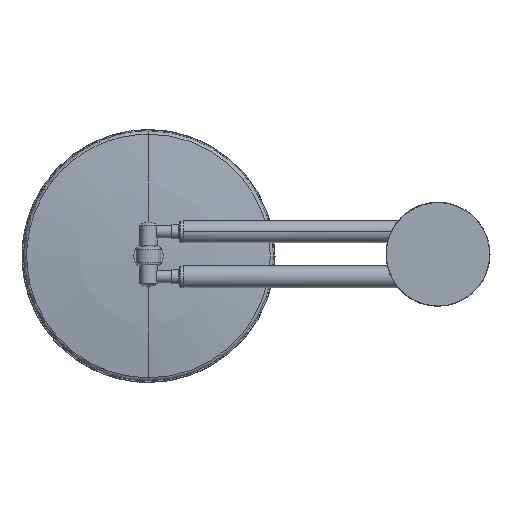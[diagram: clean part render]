
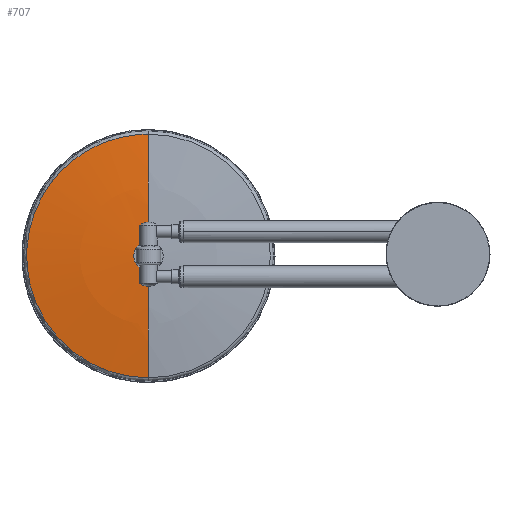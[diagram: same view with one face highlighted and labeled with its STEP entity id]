
A CAD part, front view. The second image highlights one B-rep face of the part: STEP entity #707.
In plain terms, the highlighted spherical face has radius 520.9 mm.
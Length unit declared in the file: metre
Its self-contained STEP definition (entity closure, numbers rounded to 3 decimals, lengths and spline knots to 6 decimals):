
#293=VERTEX_POINT('',#294);
#294=CARTESIAN_POINT('',(-0.167,0.04006,-0.0095));
#301=VERTEX_POINT('',#302);
#302=CARTESIAN_POINT('',(-0.167,0.04006,0.0075));
#324=VERTEX_POINT('',#325);
#325=CARTESIAN_POINT('',(-0.167,0.044752,0.06927));
#326=VERTEX_POINT('',#327);
#327=CARTESIAN_POINT('',(-0.167,0.044752,-0.07127));
#391=SPHERICAL_SURFACE('',#392,0.5209);
#392=AXIS2_PLACEMENT_3D('',#393,#394,#395);
#393=CARTESIAN_POINT('',(-0.167,0.560891,-0.001));
#394=DIRECTION('',(0.0,1.0,0.0));
#395=DIRECTION('',(0.0,0.0,1.0));
#400=EDGE_CURVE('',#293,#326,#401,.T.);
#401=CIRCLE('',#402,0.5209);
#402=AXIS2_PLACEMENT_3D('',#403,#404,#405);
#403=CARTESIAN_POINT('',(-0.167,0.560891,-0.001));
#404=DIRECTION('',(1.0,-0.0,0.));
#405=DIRECTION('',(0.,0.0,-1.0));
#408=EDGE_CURVE('',#301,#324,#409,.T.);
#409=CIRCLE('',#410,0.5209);
#410=AXIS2_PLACEMENT_3D('',#411,#412,#413);
#411=CARTESIAN_POINT('',(-0.167,0.560891,-0.001));
#412=DIRECTION('',(-1.0,0.0,0.0));
#413=DIRECTION('',(0.0,0.0,1.0));
#700=FACE_OUTER_BOUND('',#708,.T.);
#707=ADVANCED_FACE('',(#700),#391,.T.);
#708=EDGE_LOOP('',(#709,#710,#717,#718));
#709=ORIENTED_EDGE('',*,*,#400,.F.);
#710=ORIENTED_EDGE('',*,*,#712,.F.);
#711=CARTESIAN_POINT('',(-0.167,0.04006,-0.0095));
#712=EDGE_CURVE('',#301,#293,#713,.F.);
#713=(B_SPLINE_CURVE(3,(#711,#714,#715,#716),.UNSPECIFIED.,.F.,.U.)B_SPLINE_CURVE_WITH_KNOTS(
  (4,4),(0.0,1.0),.UNSPECIFIED.)BOUNDED_CURVE()CURVE()GEOMETRIC_REPRESENTATION_ITEM(
  )RATIONAL_B_SPLINE_CURVE((1.0,0.333,0.333,1.0)
  )REPRESENTATION_ITEM(''));
#714=CARTESIAN_POINT('',(-0.184,0.04006,
  -0.0095));
#715=CARTESIAN_POINT('',(-0.184,0.04006,
  0.0075));
#716=CARTESIAN_POINT('',(-0.167,0.04006,0.0075));
#717=ORIENTED_EDGE('',*,*,#408,.T.);
#718=ORIENTED_EDGE('',*,*,#720,.F.);
#719=CARTESIAN_POINT('',(-0.167,0.044752,-0.07127));
#720=EDGE_CURVE('',#326,#324,#721,.T.);
#721=(B_SPLINE_CURVE(3,(#719,#722,#723,#724),.UNSPECIFIED.,.F.,.U.)B_SPLINE_CURVE_WITH_KNOTS(
  (4,4),(0.0,1.0),.UNSPECIFIED.)BOUNDED_CURVE()CURVE()GEOMETRIC_REPRESENTATION_ITEM(
  )RATIONAL_B_SPLINE_CURVE((1.0,0.333,0.333,1.0)
  )REPRESENTATION_ITEM(''));
#722=CARTESIAN_POINT('',(-0.30754,0.044752,
  -0.07127));
#723=CARTESIAN_POINT('',(-0.30754,0.044752,
  0.06927));
#724=CARTESIAN_POINT('',(-0.167,0.044752,0.06927));
